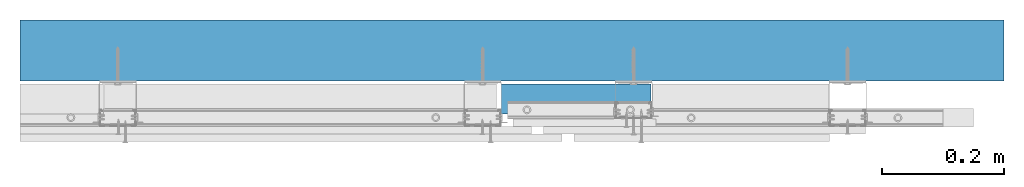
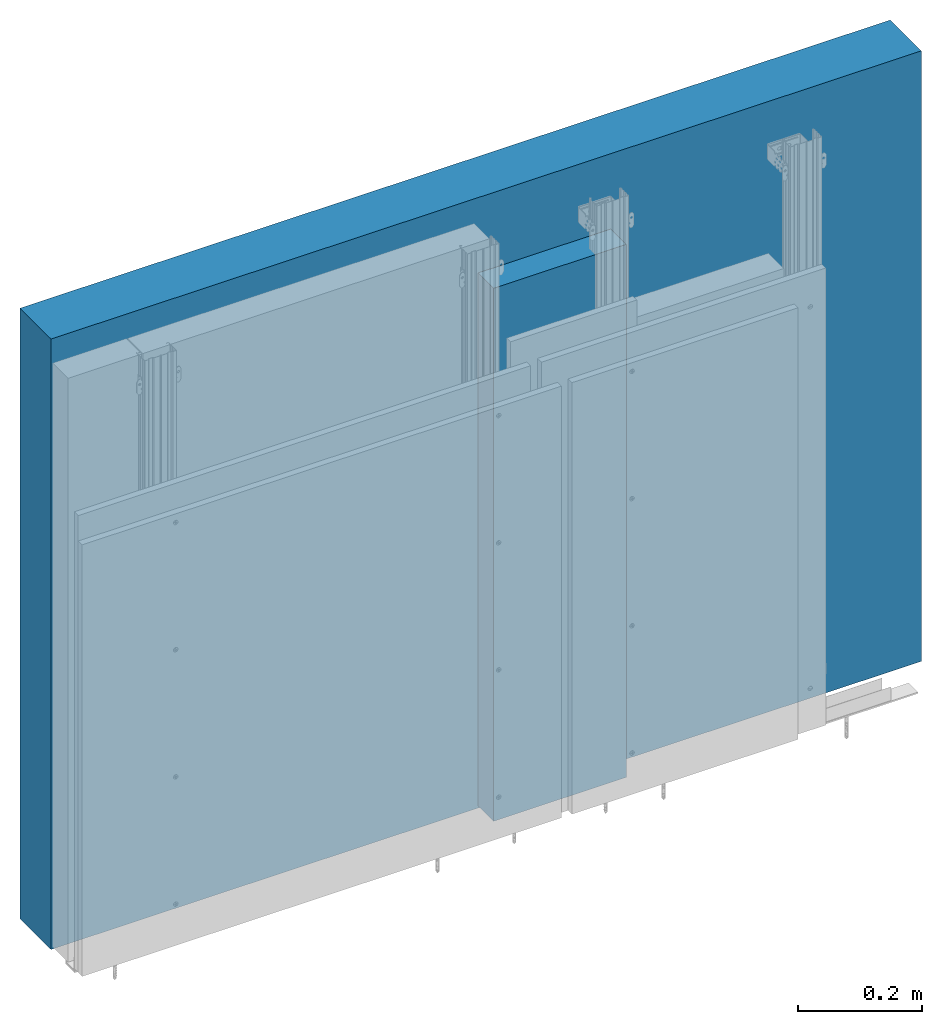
# One storey, part 1 of 48: 2 walls.
"""IFC2X3 building model written with IfcOpenShell, lengths in millimetres."""

from ifc_helpers import new_model, entity, si_unit, converted_unit, direction, frame, origin, origin_with_axes, place, context, project, spatial, faceted_brep, element, save


model = new_model("IFC2X3")

# Units and contexts
model_context = context("Model", 3, precision=1e-05, world=origin(), true_north=direction((0.0, 1.0, 0.0)))
ifc_project = project(units=[si_unit("LENGTHUNIT", "METRE", prefix="MILLI"), si_unit("AREAUNIT", "SQUARE_METRE"), si_unit("VOLUMEUNIT", "CUBIC_METRE"), converted_unit("PLANEANGLEUNIT", "DEGREE", entity("IfcPlaneAngleMeasure", 0.01745), si_unit("PLANEANGLEUNIT", "RADIAN"), dimensions=[0, 0, 0, 0, 0, 0, 0]), si_unit("SOLIDANGLEUNIT", "STERADIAN"), si_unit("MASSUNIT", "GRAM"), si_unit("TIMEUNIT", "SECOND"), si_unit("THERMODYNAMICTEMPERATUREUNIT", "DEGREE_CELSIUS"), si_unit("LUMINOUSINTENSITYUNIT", "LUMEN")], contexts=[model_context])

# Site, building, storey
site_placement = place(None, origin_with_axes())
site = spatial("IfcSite", under=ifc_project, at=site_placement, Name="Default Site", CompositionType="ELEMENT")
building_placement = place(site_placement, origin_with_axes())
building = spatial("IfcBuilding", under=site, at=building_placement, Name="Default Building", CompositionType="ELEMENT")
storey_placement = place(building_placement, origin_with_axes())
storey = spatial("IfcBuildingStorey", under=building, at=storey_placement, Name="Default Building Storey", CompositionType="ELEMENT", Elevation=0.0)

# Walls
wall_1_placement = place(storey_placement, frame((3516.951496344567, -1288.142300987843, 6.584025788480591), z_axis=(7.620176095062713e-14, 6.858158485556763e-13, 1.0), x_axis=(1.0, 9.714451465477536e-17, -7.62017609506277e-14)))
element("IfcWall", 1, at=wall_1_placement, inside=storey, Name="ŚCIANA", context=model_context, shape_type="Brep", body=[
    faceted_brep([(-1391.926362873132, 3410.283223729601, -4.2000000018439), (226.0891218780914, 3410.283223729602, -4.20000000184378), (226.0891218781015, 3310.283223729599, -4.200000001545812), (-1391.926362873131, 3310.283223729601, -4.200000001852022), (226.0891218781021, 3310.283223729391, 1195.799999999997), (-1391.926362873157, 3310.283223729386, 1195.800000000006), (226.0891218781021, 3410.28322372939, 1195.799999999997), (-1391.926362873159, 3410.28322372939, 1195.8)], [[[0, 1, 2, 3]], [[3, 2, 4, 5]], [[6, 7, 5, 4]], [[4, 2, 1, 6]], [[0, 7, 6, 1]], [[0, 3, 5, 7]]]),
])
wall_2_placement = place(storey_placement, frame((2997.657991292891, 5345.42414647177, 8.382447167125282), z_axis=(0.0, 0.0, 1.0), x_axis=(-1.0, 4.718447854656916e-16, 0.0)))
element("IfcWall", 2, at=wall_2_placement, inside=storey, Name="Wełna mineralna szklana lub skalna ISOVER", context=model_context, shape_type="Brep", body=[
    faceted_brep([(-165.2165088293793, 3378.123774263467, 1050.007948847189), (81.71848866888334, 3378.123774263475, 1050.007948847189), (81.71848866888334, 3378.123774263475, 2.350000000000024), (-165.2165088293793, 3378.123774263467, 2.350000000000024), (-165.2165088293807, 3328.283223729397, 1050.007948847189), (-165.2165088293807, 3328.283223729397, 2.350000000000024), (81.71848866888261, 3328.2832237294, 2.350000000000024), (81.71848866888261, 3328.2832237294, 1050.007948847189)], [[[0, 1, 2, 3]], [[4, 0, 3, 5]], [[2, 6, 5, 3]], [[4, 7, 1, 0]], [[5, 6, 7, 4]], [[1, 7, 6, 2]]]),
])

save(model, "model.ifc")
